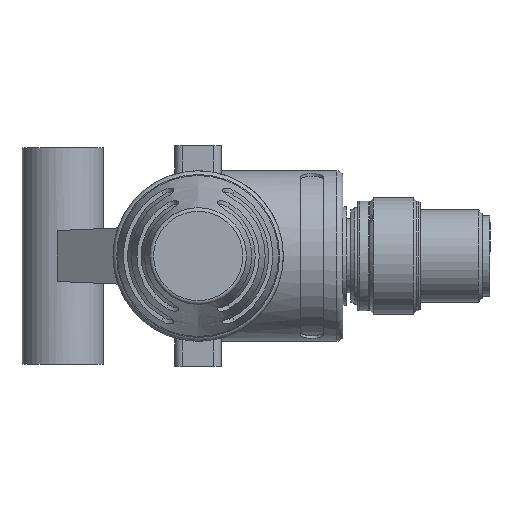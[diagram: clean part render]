
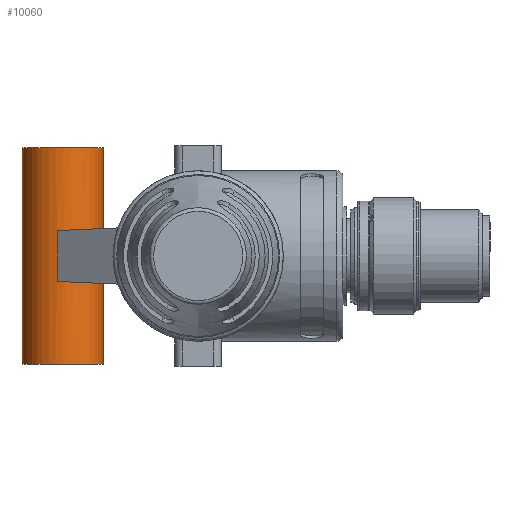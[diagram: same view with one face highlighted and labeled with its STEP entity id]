
A CAD part, left-side view. The second image highlights one B-rep face of the part: STEP entity #10060.
In plain terms, the highlighted cylindrical face has radius 5.25 mm (diameter 10.5 mm), a full revolution.
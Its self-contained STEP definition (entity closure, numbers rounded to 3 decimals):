
#55=ELLIPSE('',#11116,5.253,5.25);
#58=ELLIPSE('',#11121,5.253,5.25);
#62=ELLIPSE('',#11127,5.253,5.25);
#66=ELLIPSE('',#11134,5.253,5.25);
#1231=LINE('',#17025,#1833);
#1234=LINE('',#17036,#1836);
#1238=LINE('',#17052,#1840);
#1239=LINE('',#17057,#1841);
#1833=VECTOR('',#13703,10.);
#1836=VECTOR('',#13716,10.);
#1840=VECTOR('',#13732,10.);
#1841=VECTOR('',#13737,10.);
#2294=FACE_BOUND('',#3383,.T.);
#2295=FACE_BOUND('',#3384,.T.);
#2296=FACE_BOUND('',#3385,.T.);
#2758=FACE_OUTER_BOUND('',#3382,.T.);
#3382=EDGE_LOOP('',(#8666));
#3383=EDGE_LOOP('',(#8667,#8668,#8669,#8670));
#3384=EDGE_LOOP('',(#8671,#8672,#8673,#8674));
#3385=EDGE_LOOP('',(#8675));
#4069=CIRCLE('',#11147,5.25);
#4070=CIRCLE('',#11149,5.25);
#4866=VERTEX_POINT('',#17015);
#4867=VERTEX_POINT('',#17016);
#4870=VERTEX_POINT('',#17024);
#4872=VERTEX_POINT('',#17030);
#4876=VERTEX_POINT('',#17042);
#4877=VERTEX_POINT('',#17044);
#4879=VERTEX_POINT('',#17050);
#4881=VERTEX_POINT('',#17056);
#4888=VERTEX_POINT('',#17080);
#4889=VERTEX_POINT('',#17083);
#6179=EDGE_CURVE('',#4866,#4867,#55,.T.);
#6183=EDGE_CURVE('',#4870,#4866,#1231,.T.);
#6186=EDGE_CURVE('',#4872,#4870,#58,.T.);
#6189=EDGE_CURVE('',#4867,#4872,#1234,.T.);
#6193=EDGE_CURVE('',#4877,#4876,#62,.T.);
#6197=EDGE_CURVE('',#4876,#4879,#1238,.T.);
#6199=EDGE_CURVE('',#4881,#4877,#1239,.T.);
#6202=EDGE_CURVE('',#4879,#4881,#66,.T.);
#6209=EDGE_CURVE('',#4888,#4888,#4069,.T.);
#6210=EDGE_CURVE('',#4889,#4889,#4070,.T.);
#8666=ORIENTED_EDGE('',*,*,#6209,.T.);
#8667=ORIENTED_EDGE('',*,*,#6183,.T.);
#8668=ORIENTED_EDGE('',*,*,#6179,.T.);
#8669=ORIENTED_EDGE('',*,*,#6189,.T.);
#8670=ORIENTED_EDGE('',*,*,#6186,.T.);
#8671=ORIENTED_EDGE('',*,*,#6197,.T.);
#8672=ORIENTED_EDGE('',*,*,#6202,.T.);
#8673=ORIENTED_EDGE('',*,*,#6199,.T.);
#8674=ORIENTED_EDGE('',*,*,#6193,.T.);
#8675=ORIENTED_EDGE('',*,*,#6210,.T.);
#9585=CYLINDRICAL_SURFACE('',#11148,5.25);
#10060=ADVANCED_FACE('',(#2758,#2294,#2295,#2296),#9585,.T.);
#11116=AXIS2_PLACEMENT_3D('',#17017,#13695,#13696);
#11121=AXIS2_PLACEMENT_3D('',#17031,#13709,#13710);
#11127=AXIS2_PLACEMENT_3D('',#17045,#13724,#13725);
#11134=AXIS2_PLACEMENT_3D('',#17061,#13743,#13744);
#11147=AXIS2_PLACEMENT_3D('',#17081,#13769,#13770);
#11148=AXIS2_PLACEMENT_3D('',#17082,#13771,#13772);
#11149=AXIS2_PLACEMENT_3D('',#17084,#13773,#13774);
#13695=DIRECTION('center_axis',(0.02,0.029,0.999));
#13696=DIRECTION('ref_axis',(-0.559,-0.829,0.035));
#13703=DIRECTION('',(0.,0.,1.));
#13709=DIRECTION('center_axis',(0.02,0.029,-0.999));
#13710=DIRECTION('ref_axis',(-0.559,-0.829,-0.035));
#13716=DIRECTION('',(0.,0.,-1.));
#13724=DIRECTION('center_axis',(-0.02,0.029,
0.999));
#13725=DIRECTION('ref_axis',(-0.559,0.829,-0.035));
#13732=DIRECTION('',(0.,0.,-1.));
#13737=DIRECTION('',(0.,0.,1.));
#13743=DIRECTION('center_axis',(-0.02,0.029,
-0.999));
#13744=DIRECTION('ref_axis',(-0.559,0.829,0.035));
#13769=DIRECTION('center_axis',(0.,0.,1.));
#13770=DIRECTION('ref_axis',(-1.,0.,0.));
#13771=DIRECTION('center_axis',(0.,0.,1.));
#13772=DIRECTION('ref_axis',(-1.,0.,0.));
#13773=DIRECTION('center_axis',(0.,0.,-1.));
#13774=DIRECTION('ref_axis',(-1.,0.,0.));
#17015=CARTESIAN_POINT('',(-14.169,13.485,8.751));
#17016=CARTESIAN_POINT('',(-13.708,10.499,8.828));
#17017=CARTESIAN_POINT('Origin',(-8.969,12.759,8.67));
#17024=CARTESIAN_POINT('',(-14.169,13.485,2.177));
#17025=CARTESIAN_POINT('',(-14.169,13.485,5.464));
#17030=CARTESIAN_POINT('',(-13.708,10.499,2.099));
#17031=CARTESIAN_POINT('Origin',(-8.969,12.759,2.257));
#17036=CARTESIAN_POINT('',(-13.708,10.499,5.464));
#17042=CARTESIAN_POINT('',(-3.77,13.485,8.751));
#17044=CARTESIAN_POINT('',(-4.23,10.499,8.828));
#17045=CARTESIAN_POINT('Origin',(-8.969,12.759,8.67));
#17050=CARTESIAN_POINT('',(-3.77,13.485,2.177));
#17052=CARTESIAN_POINT('',(-3.77,13.485,5.464));
#17056=CARTESIAN_POINT('',(-4.23,10.499,2.099));
#17057=CARTESIAN_POINT('',(-4.23,10.499,5.464));
#17061=CARTESIAN_POINT('Origin',(-8.969,12.759,2.257));
#17080=CARTESIAN_POINT('',(-3.719,12.759,-8.536));
#17081=CARTESIAN_POINT('Origin',(-8.969,12.759,-8.536));
#17082=CARTESIAN_POINT('Origin',(-8.969,12.759,5.464));
#17083=CARTESIAN_POINT('',(-3.719,12.759,19.464));
#17084=CARTESIAN_POINT('Origin',(-8.969,12.759,19.464));
